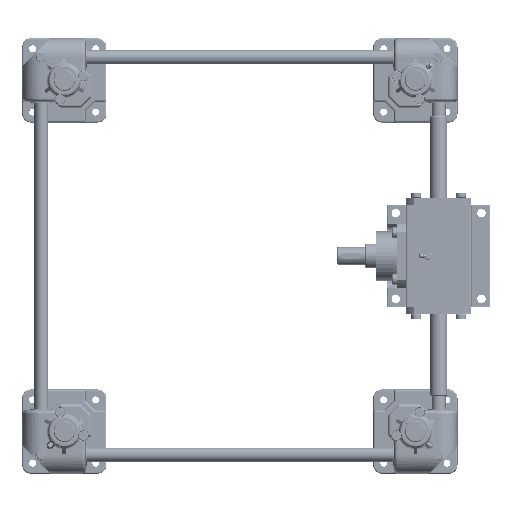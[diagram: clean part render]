
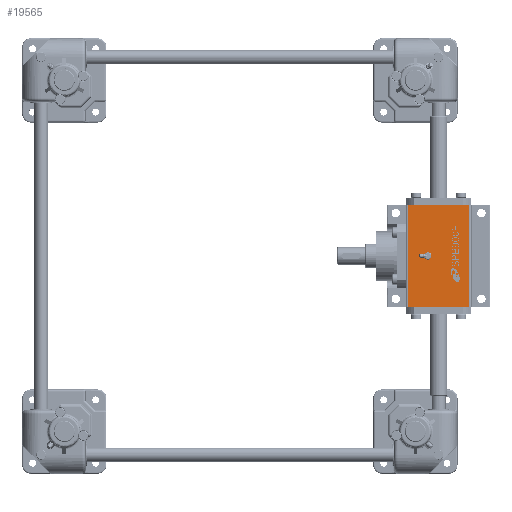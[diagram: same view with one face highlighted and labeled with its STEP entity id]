
A CAD part, top view. The second image highlights one B-rep face of the part: STEP entity #19565.
In plain terms, the highlighted planar face has unit normal (0, 0, 1).
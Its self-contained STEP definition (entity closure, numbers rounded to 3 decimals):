
#19565=ADVANCED_FACE('',(#44604,#44605),#44606,.F.);
#44604=FACE_OUTER_BOUND('',#91161,.T.);
#44605=FACE_BOUND('',#91162,.T.);
#44606=PLANE('',#91163);
#91161=EDGE_LOOP('',(#188846,#188847,#188848,#188849));
#91162=EDGE_LOOP('',(#188850));
#91163=AXIS2_PLACEMENT_3D('',#188851,#188852,#188853);
#188846=ORIENTED_EDGE('',*,*,#234065,.T.);
#188847=ORIENTED_EDGE('',*,*,#234050,.F.);
#188848=ORIENTED_EDGE('',*,*,#233947,.F.);
#188849=ORIENTED_EDGE('',*,*,#233969,.T.);
#188850=ORIENTED_EDGE('',*,*,#234070,.F.);
#188851=CARTESIAN_POINT('',(0.,-47.0,96.5));
#188852=DIRECTION('',(0.,0.0,-1.0));
#188853=DIRECTION('',(0.0,-1.0,0.0));
#233947=EDGE_CURVE('',#289584,#289579,#289586,.T.);
#233969=EDGE_CURVE('',#289584,#289620,#289622,.T.);
#234050=EDGE_CURVE('',#289579,#289752,#289753,.T.);
#234065=EDGE_CURVE('',#289620,#289752,#289772,.T.);
#234070=EDGE_CURVE('',#289777,#289777,#289778,.T.);
#289579=VERTEX_POINT('',#392105);
#289584=VERTEX_POINT('',#392111);
#289586=LINE('',#392113,#392114);
#289620=VERTEX_POINT('',#392160);
#289622=LINE('',#392162,#392163);
#289752=VERTEX_POINT('',#392399);
#289753=LINE('',#392400,#392401);
#289772=LINE('',#392489,#392490);
#289777=VERTEX_POINT('',#392499);
#289778=CIRCLE('',#392500,3.0);
#392105=CARTESIAN_POINT('',(73.0,44.0,96.5));
#392111=CARTESIAN_POINT('',(-73.0,44.0,96.5));
#392113=CARTESIAN_POINT('',(0.,44.0,96.5));
#392114=VECTOR('',#440800,1.0);
#392160=CARTESIAN_POINT('',(-73.0,-44.0,96.5));
#392162=CARTESIAN_POINT('',(-73.0,0.0,96.5));
#392163=VECTOR('',#440840,1.0);
#392399=CARTESIAN_POINT('',(73.0,-44.0,96.5));
#392400=CARTESIAN_POINT('',(73.0,0.0,96.5));
#392401=VECTOR('',#440990,1.0);
#392489=CARTESIAN_POINT('',(0.,-44.0,96.5));
#392490=VECTOR('',#441018,1.0);
#392499=CARTESIAN_POINT('',(3.0,15.2,96.5));
#392500=AXIS2_PLACEMENT_3D('',#441023,#441024,#441025);
#440800=DIRECTION('',(1.0,0.0,0.0));
#440840=DIRECTION('',(0.0,-1.0,0.0));
#440990=DIRECTION('',(0.0,-1.0,0.0));
#441018=DIRECTION('',(1.0,0.0,0.));
#441023=CARTESIAN_POINT('',(0.0,15.2,96.5));
#441024=DIRECTION('',(0.,0.0,1.0));
#441025=DIRECTION('',(1.0,0.0,0.));
